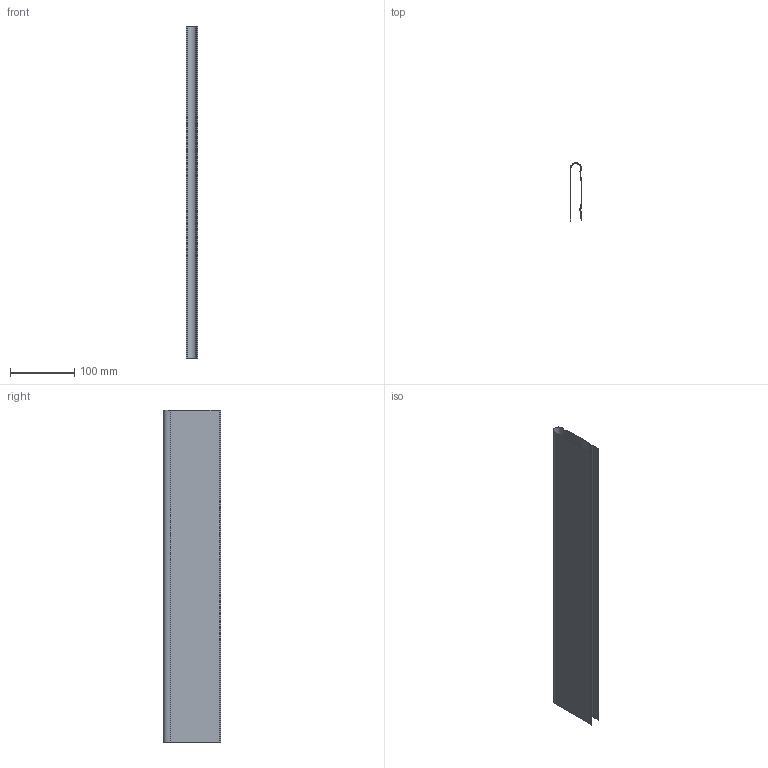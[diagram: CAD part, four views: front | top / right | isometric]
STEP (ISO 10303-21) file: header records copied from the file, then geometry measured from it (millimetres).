
FILE_DESCRIPTION (( 'STEP AP214' ), '1' );
FILE_NAME ('_Duowing NL550.step', '2010-07-14T13:30:48', ( 'grass' ), ( '' ), 'SwSTEP 2.0', 'SolidWorks 2010', '' );
FILE_SCHEMA (( 'AUTOMOTIVE_DESIGN' ));
Length unit declared in the file: millimetre
Products named in the file (1): _Duowing NL550
Bounding box: 18.64 x 90.48 x 518 mm (x, y, z)
Volume: 73340.6 mm3; surface area: 196635.1 mm2
Topology: 1 solids, 1 shells, 54 faces, 108 edges, 56 vertices
Faces by surface type: plane 36, cylinder 18
Entity records: 1378 total; most frequent: DIRECTION 254, CARTESIAN_POINT 219, ORIENTED_EDGE 216, EDGE_CURVE 108, AXIS2_PLACEMENT_3D 91, VECTOR 72, LINE 72, VERTEX_POINT 56
